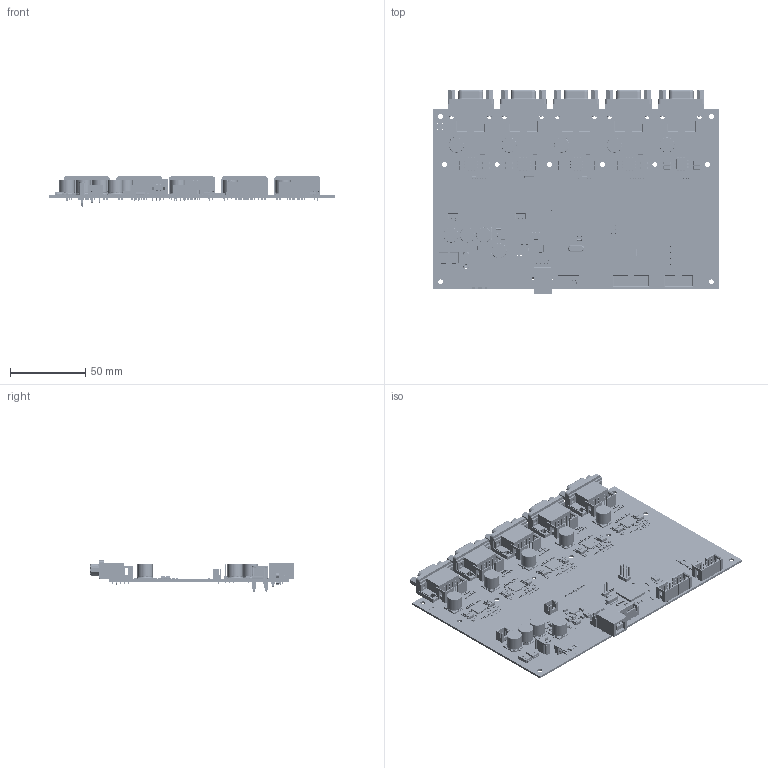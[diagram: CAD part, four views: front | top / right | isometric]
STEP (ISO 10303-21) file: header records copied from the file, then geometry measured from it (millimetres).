
FILE_DESCRIPTION(('Open CASCADE Model'),'2;1');
FILE_NAME('Open CASCADE Shape Model','2020-03-15T18:53:13',('Author'),( 'Open CASCADE'),'Open CASCADE STEP processor 6.8','Open CASCADE 6.8' ,'Unknown');
FILE_SCHEMA(('AUTOMOTIVE_DESIGN { 1 0 10303 214 1 1 1 1 }'));
Length unit declared in the file: millimetre
Products named in the file (434): PCB; Board; Open CASCADE STEP translator 6.8 5.1.1; X8; User_Library-CWF-5; X9; User_Library-CWF-4; RA9; SMD_R1206-4Way-Var2-1; User_Library-Array-1206-4Way-Var2-1_Anschl_X_FCsse_1; User_Library-Array-1206-4Way-Var2-1_K_X_F6rper_1; User_Library-Array-1206-4Way-Var2-1_Deckel_1; User_Library-Array-1206-4Way-Var2-1_Beschriftung_1; VT2; SOT-23_3; VD13; VD14; VD12; R15; 6113628208; Extruded; 6113627968; R14; R13; 6113629248; 6113629008; R12; Q1; HP49US; L2; L_0805HT; DD2; 6113626288; C39; 6113625968; 6113625728; C38; C37; 6113624848; 6113624368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
Assembly tree (1087 placements, depth 5):
  PCB
    Board
      Open CASCADE STEP translator 6.8 5.1.1
    X8
      User_Library-CWF-5  x2
      User_Library-CWF-5
      User_Library-CWF-5  x2
      User_Library-CWF-5
    X9
      User_Library-CWF-4
    RA9
      SMD_R1206-4Way-Var2-1
        User_Library-Array-1206-4Way-Var2-1_Anschl_X_FCsse_1
        User_Library-Array-1206-4Way-Var2-1_K_X_F6rper_1
        User_Library-Array-1206-4Way-Var2-1_Deckel_1
        User_Library-Array-1206-4Way-Var2-1_Beschriftung_1
    VT2
      SOT-23_3
    VD13
      SOT-23_3
    VD14
      SOT-23_3
    VD12
      SOT-23_3
    R15
      6113628208
        Extruded
      6113627968
        Extruded
    R14
      6113628208
        Extruded
      6113627968
        Extruded
    R13
      6113629248
        Extruded
      6113629008
        Extruded
    R12
      6113628208
        Extruded
      6113627968
        Extruded
    Q1
      HP49US
    L2
      L_0805HT
    DD2
      6113626288
        Extruded
    C39
      6113625968  x2
        Extruded
      6113625728
        Extruded
    C38
      6113625968  x2
        Extruded
      6113625728
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Bounding box: 190 x 135.04 x 20.68 mm (x, y, z)
Volume: 102439.7 mm3; surface area: 110810.4 mm2
Topology: 799 solids, 819 shells, 28917 faces, 73172 edges, 46934 vertices
Faces by surface type: plane 19390, cylinder 4325, bspline 4310, cone 522, sphere 258, torus 112
Full cylindrical faces by diameter (mm): 0.7 x2, 0.8 x6, 0.9 x30, 1 x158, 1.2 x4, 1.3 x2, 2.3 x2, 3.2 x10, 3.3 x10, 5 x1
Entity records: 206057 total; most frequent: CARTESIAN_POINT 47434, ORIENTED_EDGE 25042, DIRECTION 24175, EDGE_CURVE 12521, LINE 9535, VECTOR 9535, VERTEX_POINT 8036, AXIS2_PLACEMENT_3D 7320
